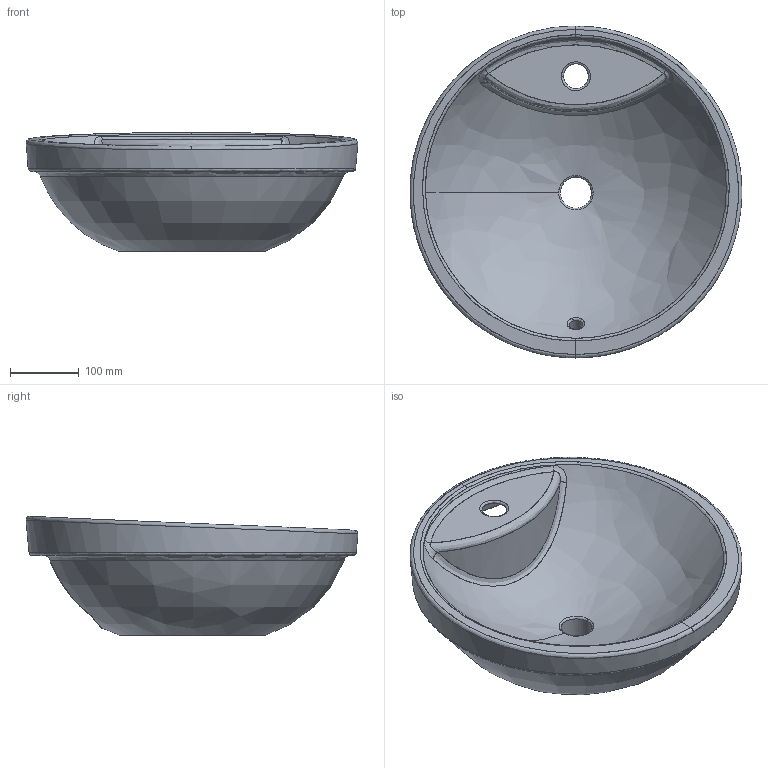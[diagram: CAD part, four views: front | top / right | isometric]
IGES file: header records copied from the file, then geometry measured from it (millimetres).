
Start section: C
Global section: file name: Rondò Bianco.igs,; native system:  By UGS Corp.; preprocessor: XPlus GENERIC/IGES 3.0; author: Author; organization: Title; date: 20120612.161045; units: millimetre
Bounding box: 481.96 x 482.31 x 173 mm (x, y, z)
Surface area: 586019.1 mm2 (no closed solid volume)
Topology: 0 solids, 0 shells, 79 faces, 407 edges, 402 vertices
Faces by surface type: bspline 79
